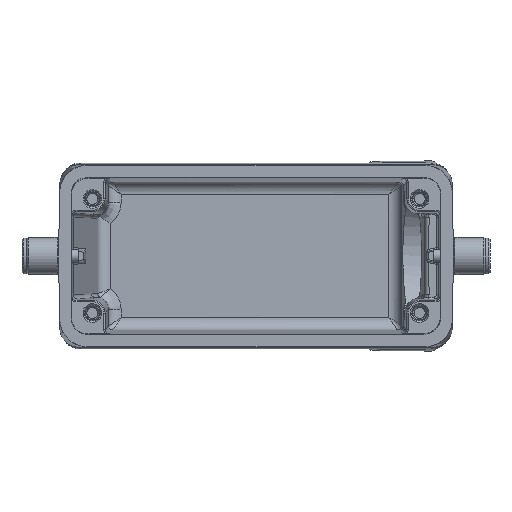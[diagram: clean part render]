
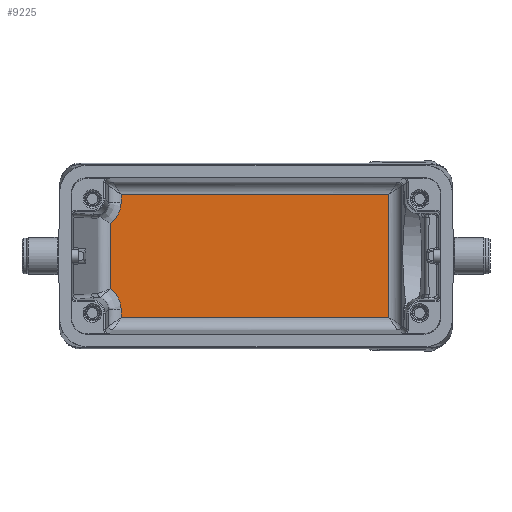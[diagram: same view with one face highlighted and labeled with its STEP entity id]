
A CAD part, front view. The second image highlights one B-rep face of the part: STEP entity #9225.
In plain terms, the highlighted planar face has unit normal (0, -1, 0).
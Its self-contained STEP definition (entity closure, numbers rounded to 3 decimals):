
#1236 = CARTESIAN_POINT ( 'NONE',  ( -34.509, 70., -7.769 ) ) ;
#1345 = EDGE_CURVE ( 'NONE', #14658, #6566, #26292, .T. ) ;
#1610 = PLANE ( 'NONE',  #20980 ) ;
#1657 = CARTESIAN_POINT ( 'NONE',  ( -32.845, 70., -9.487 ) ) ;
#1767 = CARTESIAN_POINT ( 'NONE',  ( -31.941, 70., -14.564 ) ) ;
#1978 = VECTOR ( 'NONE', #7926, 1000. ) ;
#2098 = ORIENTED_EDGE ( 'NONE', *, *, #18109, .T. ) ;
#2562 = CARTESIAN_POINT ( 'NONE',  ( 31.477, 70., -15.147 ) ) ;
#2684 = VECTOR ( 'NONE', #12982, 1000. ) ;
#3128 = EDGE_CURVE ( 'NONE', #6566, #3529, #18625, .T. ) ;
#3529 = VERTEX_POINT ( 'NONE', #13390 ) ;
#3798 = CARTESIAN_POINT ( 'NONE',  ( -32.229, 70., -10.793 ) ) ;
#4124 = CARTESIAN_POINT ( 'NONE',  ( 31.477, 70., -14.564 ) ) ;
#4506 = CARTESIAN_POINT ( 'NONE',  ( -34.346, 70., 14.564 ) ) ;
#4525 = FACE_OUTER_BOUND ( 'NONE', #6765, .T. ) ;
#5418 = CARTESIAN_POINT ( 'NONE',  ( -31.941, 70., -15.147 ) ) ;
#5831 = CARTESIAN_POINT ( 'NONE',  ( -31.941, 70., -12.691 ) ) ;
#5880 = CARTESIAN_POINT ( 'NONE',  ( -35.829, 70., -15.147 ) ) ;
#5941 = CARTESIAN_POINT ( 'NONE',  ( -31.999, 70., -11.73 ) ) ;
#6124 = CARTESIAN_POINT ( 'NONE',  ( -35.829, 70., -14.564 ) ) ;
#6128 = VERTEX_POINT ( 'NONE', #5831 ) ;
#6566 = VERTEX_POINT ( 'NONE', #4124 ) ;
#6765 = EDGE_LOOP ( 'NONE', ( #15208, #27084, #9848, #14313, #23338, #24578, #12709, #2098 ) ) ;
#6923 = DIRECTION ( 'NONE',  ( -1., 0., 0. ) ) ;
#7305 = CARTESIAN_POINT ( 'NONE',  ( -32.229, 70., 10.793 ) ) ;
#7562 = DIRECTION ( 'NONE',  ( 0., 0., -1. ) ) ;
#7926 = DIRECTION ( 'NONE',  ( 0., 0., -1. ) ) ;
#8143 = DIRECTION ( 'NONE',  ( 0., 0., -1. ) ) ;
#8504 = EDGE_CURVE ( 'NONE', #3529, #20143, #18518, .T. ) ;
#8816 = CARTESIAN_POINT ( 'NONE',  ( -31.941, 70., 14.564 ) ) ;
#9225 = ADVANCED_FACE ( 'NONE', ( #4525 ), #1610, .T. ) ;
#9243 = CARTESIAN_POINT ( 'NONE',  ( -34.112, 70., 8.046 ) ) ;
#9435 = CARTESIAN_POINT ( 'NONE',  ( -31.941, 70., 12.691 ) ) ;
#9848 = ORIENTED_EDGE ( 'NONE', *, *, #1345, .T. ) ;
#10116 = CARTESIAN_POINT ( 'NONE',  ( -33.755, 70., -8.366 ) ) ;
#10202 = CARTESIAN_POINT ( 'NONE',  ( -34.113, 70., -8.046 ) ) ;
#10244 = VERTEX_POINT ( 'NONE', #11663 ) ;
#10282 = EDGE_CURVE ( 'NONE', #22494, #10244, #23595, .T. ) ;
#10718 = VECTOR ( 'NONE', #18753, 1000. ) ;
#11663 = CARTESIAN_POINT ( 'NONE',  ( -34.509, 70., 7.769 ) ) ;
#11864 = VERTEX_POINT ( 'NONE', #1236 ) ;
#12271 = EDGE_CURVE ( 'NONE', #11864, #6128, #22808, .T. ) ;
#12709 = ORIENTED_EDGE ( 'NONE', *, *, #10282, .T. ) ;
#12982 = DIRECTION ( 'NONE',  ( 0., 0., 1. ) ) ;
#13390 = CARTESIAN_POINT ( 'NONE',  ( 31.477, 70., 14.564 ) ) ;
#13429 = CARTESIAN_POINT ( 'NONE',  ( -33.754, 70., 8.366 ) ) ;
#14313 = ORIENTED_EDGE ( 'NONE', *, *, #3128, .T. ) ;
#14488 = CARTESIAN_POINT ( 'NONE',  ( -31.941, 70., -12.207 ) ) ;
#14658 = VERTEX_POINT ( 'NONE', #1767 ) ;
#14909 = LINE ( 'NONE', #25183, #17580 ) ;
#15208 = ORIENTED_EDGE ( 'NONE', *, *, #12271, .T. ) ;
#16160 = DIRECTION ( 'NONE',  ( 0., 0., -1. ) ) ;
#16542 = CARTESIAN_POINT ( 'NONE',  ( -32.398, 70., -10.343 ) ) ;
#17580 = VECTOR ( 'NONE', #8143, 1000. ) ;
#17685 = LINE ( 'NONE', #22445, #22609 ) ;
#17805 = CARTESIAN_POINT ( 'NONE',  ( -34.509, 70., 7.769 ) ) ;
#18109 = EDGE_CURVE ( 'NONE', #10244, #11864, #17685, .T. ) ;
#18518 = LINE ( 'NONE', #4506, #24138 ) ;
#18625 = LINE ( 'NONE', #2562, #2684 ) ;
#18753 = DIRECTION ( 'NONE',  ( 1., 0., 0. ) ) ;
#20143 = VERTEX_POINT ( 'NONE', #8816 ) ;
#20788 = CARTESIAN_POINT ( 'NONE',  ( -31.941, 70., -12.691 ) ) ;
#20980 = AXIS2_PLACEMENT_3D ( 'NONE', #5880, #26479, #7562 ) ;
#21715 = EDGE_CURVE ( 'NONE', #6128, #14658, #25877, .T. ) ;
#22043 = CARTESIAN_POINT ( 'NONE',  ( -31.999, 70., 11.73 ) ) ;
#22139 = CARTESIAN_POINT ( 'NONE',  ( -32.399, 70., 10.343 ) ) ;
#22445 = CARTESIAN_POINT ( 'NONE',  ( -34.509, 70., -15.147 ) ) ;
#22494 = VERTEX_POINT ( 'NONE', #24448 ) ;
#22609 = VECTOR ( 'NONE', #16160, 1000. ) ;
#22808 = B_SPLINE_CURVE_WITH_KNOTS ( 'NONE', 3,
 ( #27013, #10202, #10116, #24932, #1657, #16542, #3798, #5941, #14488, #20788 ),
 .UNSPECIFIED., .F., .F.,
 ( 4, 2, 2, 2, 4 ),
 ( 0., 0.25, 0.5, 0.75, 1. ),
 .UNSPECIFIED. ) ;
#23338 = ORIENTED_EDGE ( 'NONE', *, *, #8504, .T. ) ;
#23595 = B_SPLINE_CURVE_WITH_KNOTS ( 'NONE', 3,
 ( #9435, #24266, #22043, #7305, #22139, #24440, #26401, #13429, #9243, #17805 ),
 .UNSPECIFIED., .F., .F.,
 ( 4, 2, 2, 2, 4 ),
 ( 0., 0.25, 0.5, 0.75, 1. ),
 .UNSPECIFIED. ) ;
#23945 = EDGE_CURVE ( 'NONE', #20143, #22494, #14909, .T. ) ;
#24138 = VECTOR ( 'NONE', #6923, 1000. ) ;
#24266 = CARTESIAN_POINT ( 'NONE',  ( -31.941, 70., 12.207 ) ) ;
#24440 = CARTESIAN_POINT ( 'NONE',  ( -32.845, 70., 9.487 ) ) ;
#24448 = CARTESIAN_POINT ( 'NONE',  ( -31.941, 70., 12.691 ) ) ;
#24578 = ORIENTED_EDGE ( 'NONE', *, *, #23945, .T. ) ;
#24932 = CARTESIAN_POINT ( 'NONE',  ( -33.117, 70., -9.091 ) ) ;
#25183 = CARTESIAN_POINT ( 'NONE',  ( -31.941, 70., -15.147 ) ) ;
#25877 = LINE ( 'NONE', #5418, #1978 ) ;
#26292 = LINE ( 'NONE', #6124, #10718 ) ;
#26401 = CARTESIAN_POINT ( 'NONE',  ( -33.117, 70., 9.091 ) ) ;
#26479 = DIRECTION ( 'NONE',  ( 0., -1., 0. ) ) ;
#27013 = CARTESIAN_POINT ( 'NONE',  ( -34.509, 70., -7.769 ) ) ;
#27084 = ORIENTED_EDGE ( 'NONE', *, *, #21715, .T. ) ;
